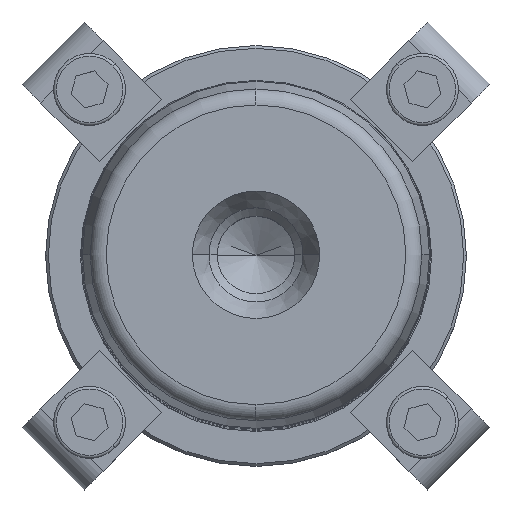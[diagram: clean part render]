
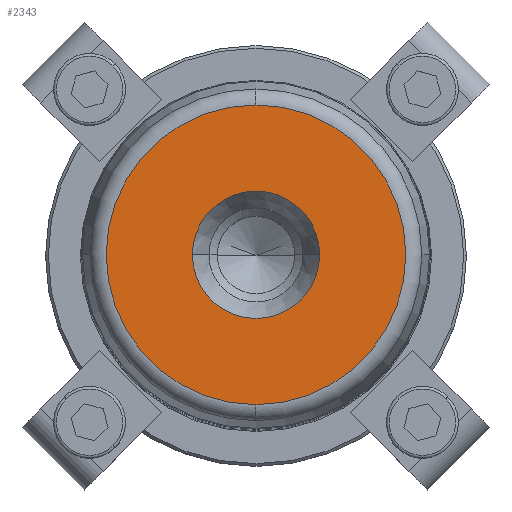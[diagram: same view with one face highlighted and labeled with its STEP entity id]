
A CAD part, top view. The second image highlights one B-rep face of the part: STEP entity #2343.
In plain terms, the highlighted planar face has unit normal (0, 0, 1).
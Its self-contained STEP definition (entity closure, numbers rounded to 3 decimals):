
#431=CARTESIAN_POINT('',(11.5,0.,125.0));
#432=VERTEX_POINT('',#431);
#439=CARTESIAN_POINT('',(-11.5,0.,125.0));
#440=VERTEX_POINT('',#439);
#441=CARTESIAN_POINT('',(0.0,0.,125.0));
#442=DIRECTION('',(0.0,0.0,1.0));
#443=DIRECTION('',(1.0,0.0,0.0));
#444=AXIS2_PLACEMENT_3D('',#441,#442,#443);
#445=CIRCLE('',#444,11.5);
#446=EDGE_CURVE('',#432,#440,#445,.T.);
#463=CARTESIAN_POINT('',(0.0,-27.054,125.0));
#464=VERTEX_POINT('',#463);
#474=CARTESIAN_POINT('',(0.,27.054,125.0));
#475=VERTEX_POINT('',#474);
#476=CARTESIAN_POINT('',(0.0,0.,125.0));
#477=DIRECTION('',(0.0,0.0,1.0));
#478=DIRECTION('',(1.0,0.0,0.0));
#479=AXIS2_PLACEMENT_3D('',#476,#477,#478);
#480=CIRCLE('',#479,27.054);
#481=EDGE_CURVE('',#475,#464,#480,.T.);
#2304=CARTESIAN_POINT('',(27.054,0.,125.0));
#2305=VERTEX_POINT('',#2304);
#2306=CARTESIAN_POINT('',(0.0,0.,125.0));
#2307=DIRECTION('',(0.0,0.0,1.0));
#2308=DIRECTION('',(1.0,0.0,0.0));
#2309=AXIS2_PLACEMENT_3D('',#2306,#2307,#2308);
#2310=CIRCLE('',#2309,27.054);
#2311=EDGE_CURVE('',#2305,#475,#2310,.T.);
#2313=CARTESIAN_POINT('',(0.0,0.,125.0));
#2314=DIRECTION('',(0.0,0.0,1.0));
#2315=DIRECTION('',(1.0,0.0,0.0));
#2316=AXIS2_PLACEMENT_3D('',#2313,#2314,#2315);
#2317=CIRCLE('',#2316,27.054);
#2318=EDGE_CURVE('',#464,#2305,#2317,.T.);
#2323=CARTESIAN_POINT('',(19.277,0.,125.0));
#2324=DIRECTION('',(0.0,0.0,1.0));
#2325=DIRECTION('',(0.0,-1.0,0.0));
#2326=AXIS2_PLACEMENT_3D('',#2323,#2324,#2325);
#2327=PLANE('',#2326);
#2328=ORIENTED_EDGE('',*,*,#2311,.T.);
#2329=ORIENTED_EDGE('',*,*,#481,.T.);
#2330=ORIENTED_EDGE('',*,*,#2318,.T.);
#2331=EDGE_LOOP('',(#2328,#2329,#2330));
#2332=FACE_OUTER_BOUND('',#2331,.T.);
#2333=ORIENTED_EDGE('',*,*,#446,.F.);
#2334=CARTESIAN_POINT('',(0.0,0.,125.0));
#2335=DIRECTION('',(0.0,0.0,1.0));
#2336=DIRECTION('',(1.0,0.0,0.0));
#2337=AXIS2_PLACEMENT_3D('',#2334,#2335,#2336);
#2338=CIRCLE('',#2337,11.5);
#2339=EDGE_CURVE('',#440,#432,#2338,.T.);
#2340=ORIENTED_EDGE('',*,*,#2339,.F.);
#2341=EDGE_LOOP('',(#2333,#2340));
#2342=FACE_BOUND('',#2341,.T.);
#2343=ADVANCED_FACE('',(#2332,#2342),#2327,.T.);
